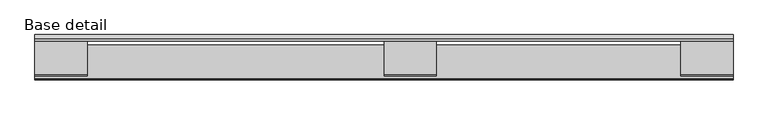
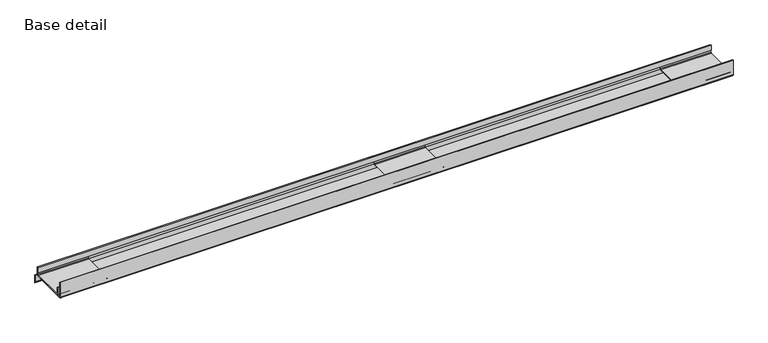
"""IFC4 building model written with IfcOpenShell, lengths in millimetres: beam geometry, TE-H-02_01_Base detail i_BEAM : Base detail."""

from ifc_helpers import new_model, si_unit, point, frame, frame_2d, origin, place, context, project, spatial, polyline, circle_curve, trimmed, segment, composite_curve, outline, extrude, source, transform, mapped, element, save


def base_detail_1a4634c7(model_context):
    return source(origin(), model_context, "Body", "SweptSolid", [
        extrude(outline(composite_curve([segment(polyline([(-8.0, 25.0), (-8.0, 4.0)]), True, "CONTINUOUS"), segment(trimmed(circle_curve(frame_2d((-12.0, 4.0)), 4.0), [point((-8.0, 4.0))], [point((-12.0, 0.0))], False, "CARTESIAN"), True, "CONTINUOUS"), segment(polyline([(-12.0, 0.0), (-108.0, 0.0)]), True, "CONTINUOUS"), segment(trimmed(circle_curve(frame_2d((-108.0, 4.0)), 4.0), [point((-108.0, 0.0))], [point((-112.0, 4.0))], False, "CARTESIAN"), True, "CONTINUOUS"), segment(polyline([(-112.0, 4.0), (-112.0, 25.0), (-110.0, 25.0), (-110.0, 4.0)]), True, "CONTINUOUS"), segment(trimmed(circle_curve(frame_2d((-108.0, 4.0)), 2.0), [point((-110.0, 4.0))], [point((-108.0, 2.0))], True, "CARTESIAN"), True, "CONTINUOUS"), segment(polyline([(-108.0, 2.0), (-12.0, 2.0)]), True, "CONTINUOUS"), segment(trimmed(circle_curve(frame_2d((-12.0, 4.0)), 2.0), [point((-12.0, 2.0))], [point((-10.0, 4.0))], True, "CARTESIAN"), True, "CONTINUOUS"), segment(polyline([(-10.0, 4.0), (-10.0, 25.0), (-8.0, 25.0)]), True, "CONTINUOUS")], self_intersect=False)), frame((850.8, 0.0, 0.0), z_axis=(1.0, 0.0, 0.0), x_axis=(0.0, 1.0, 0.0)), (0.0, 0.0, 1.0), 150.0),
        extrude(outline(composite_curve([segment(polyline([(-8.0, 25.0), (-8.0, 4.0)]), True, "CONTINUOUS"), segment(trimmed(circle_curve(frame_2d((-12.0, 4.0)), 4.0), [point((-8.0, 4.0))], [point((-12.0, 0.0))], False, "CARTESIAN"), True, "CONTINUOUS"), segment(polyline([(-12.0, 0.0), (-108.0, 0.0)]), True, "CONTINUOUS"), segment(trimmed(circle_curve(frame_2d((-108.0, 4.0)), 4.0), [point((-108.0, 0.0))], [point((-112.0, 4.0))], False, "CARTESIAN"), True, "CONTINUOUS"), segment(polyline([(-112.0, 4.0), (-112.0, 25.0), (-110.0, 25.0), (-110.0, 4.0)]), True, "CONTINUOUS"), segment(trimmed(circle_curve(frame_2d((-108.0, 4.0)), 2.0), [point((-110.0, 4.0))], [point((-108.0, 2.0))], True, "CARTESIAN"), True, "CONTINUOUS"), segment(polyline([(-108.0, 2.0), (-12.0, 2.0)]), True, "CONTINUOUS"), segment(trimmed(circle_curve(frame_2d((-12.0, 4.0)), 2.0), [point((-12.0, 2.0))], [point((-10.0, 4.0))], True, "CARTESIAN"), True, "CONTINUOUS"), segment(polyline([(-10.0, 4.0), (-10.0, 25.0), (-8.0, 25.0)]), True, "CONTINUOUS")], self_intersect=False)), frame((0.4, 0.0, 0.0), z_axis=(1.0, 0.0, 0.0), x_axis=(0.0, 1.0, 0.0)), (0.0, 0.0, 1.0), 150.0),
        extrude(outline(composite_curve([segment(polyline([(-8.0, 25.0), (-8.0, 4.0)]), True, "CONTINUOUS"), segment(trimmed(circle_curve(frame_2d((-12.0, 4.0)), 4.0), [point((-8.0, 4.0))], [point((-12.0, 0.0))], False, "CARTESIAN"), True, "CONTINUOUS"), segment(polyline([(-12.0, 0.0), (-108.0, 0.0)]), True, "CONTINUOUS"), segment(trimmed(circle_curve(frame_2d((-108.0, 4.0)), 4.0), [point((-108.0, 0.0))], [point((-112.0, 4.0))], False, "CARTESIAN"), True, "CONTINUOUS"), segment(polyline([(-112.0, 4.0), (-112.0, 25.0), (-110.0, 25.0), (-110.0, 4.0)]), True, "CONTINUOUS"), segment(trimmed(circle_curve(frame_2d((-108.0, 4.0)), 2.0), [point((-110.0, 4.0))], [point((-108.0, 2.0))], True, "CARTESIAN"), True, "CONTINUOUS"), segment(polyline([(-108.0, 2.0), (-12.0, 2.0)]), True, "CONTINUOUS"), segment(trimmed(circle_curve(frame_2d((-12.0, 4.0)), 2.0), [point((-12.0, 2.0))], [point((-10.0, 4.0))], True, "CARTESIAN"), True, "CONTINUOUS"), segment(polyline([(-10.0, 4.0), (-10.0, 25.0), (-8.0, 25.0)]), True, "CONTINUOUS")], self_intersect=False)), frame((-1000.0, 0.0, 0.0), z_axis=(1.0, 0.0, 0.0), x_axis=(0.0, 1.0, 0.0)), (0.0, 0.0, 1.0), 150.0),
        extrude(outline(composite_curve([segment(trimmed(circle_curve(frame_2d((-121.5, 1.5)), 3.0), [point((-121.5, -1.5))], [point((-124.5, 1.5))], False, "CARTESIAN"), True, "CONTINUOUS"), segment(polyline([(-124.5, 1.5), (-124.5, 48.5), (-123.0, 48.5), (-123.0, 1.5)]), True, "CONTINUOUS"), segment(trimmed(circle_curve(frame_2d((-121.5, 1.5)), 1.5), [point((-123.0, 1.5))], [point((-121.5, 0.0))], True, "CARTESIAN"), True, "CONTINUOUS"), segment(polyline([(-121.5, 0.0), (-24.5, 0.0), (-24.5, -1.5), (-121.5, -1.5)]), True, "CONTINUOUS")], self_intersect=False)), frame((-1000.0, 0.0, 0.0), z_axis=(1.0, 0.0, 0.0), x_axis=(0.0, 1.0, 0.0)), (0.0, 0.0, 1.0), 2000.8),
        extrude(outline(polyline([(-12.2, 26.1857205), (-7.2, 26.1857205), (-7.2, 1.1857205), (5.7903811, -6.3142795), (5.7903811, -31.3142795), (-4.8162207, -20.7076778), (-4.2505352, -20.1419923), (4.9903811, -29.3829086), (4.9903811, -6.7761597), (-8.0, 0.7238403), (-8.0, 25.3857205), (-11.4, 25.3857205), (-11.4, 11.1857205), (-12.2, 11.1857205), (-12.2, 26.1857205)])), frame((-1000.0, 0.0, 0.0), z_axis=(1.0, 0.0, 0.0), x_axis=(0.0, 1.0, 0.0)), (0.0, 0.0, 1.0), 2000.8),
    ])


if __name__ == "__main__":
    model = new_model("IFC4")
    model_context = context("Model", 3, world=origin())
    ifc_project = project(units=[si_unit("LENGTHUNIT", "METRE", prefix="MILLI")], contexts=[model_context])
    site = spatial("IfcSite", under=ifc_project)
    building = spatial("IfcBuilding", under=site)
    placement = place(None, origin())
    base_detail_shape = base_detail_1a4634c7(model_context)
    element("IfcBeam", 1, ObjectType="TE-H-02_01_Base detail i_BEAM : Base detail", at=placement, inside=building, context=model_context, shape_type="MappedRepresentation", body=[
        mapped(base_detail_shape, transform((0.0, 0.0, 0.0), x_axis=(1.0, 0.0, 0.0), y_axis=(0.0, 1.0, 0.0), z_axis=(0.0, 0.0, 1.0))),
    ])
    save(model, "model.ifc")
